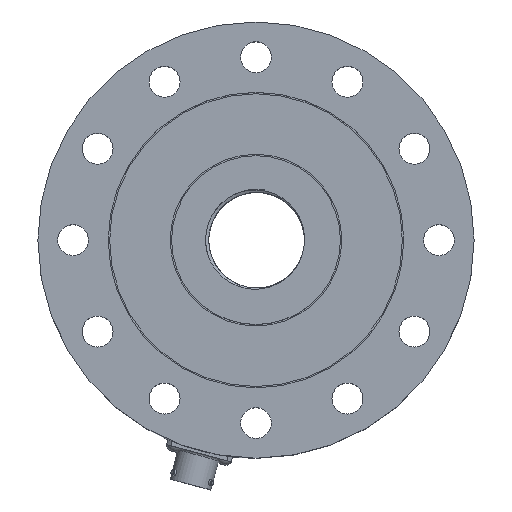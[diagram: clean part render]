
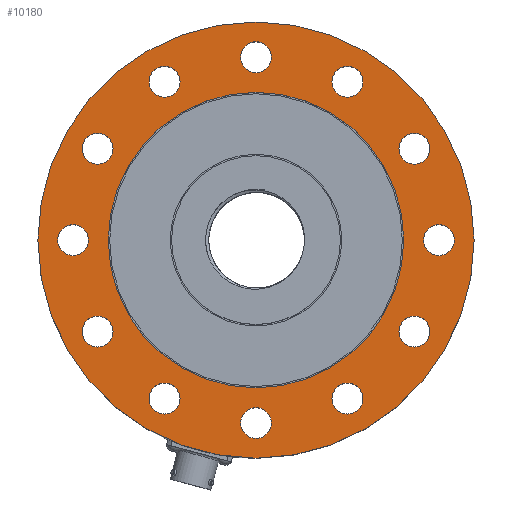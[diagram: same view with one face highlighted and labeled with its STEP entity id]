
A CAD part, top view. The second image highlights one B-rep face of the part: STEP entity #10180.
In plain terms, the highlighted planar face has unit normal (0, 0, 1).
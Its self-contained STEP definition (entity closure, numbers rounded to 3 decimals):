
#184=FACE_BOUND('',#1755,.T.);
#185=FACE_BOUND('',#1756,.T.);
#186=FACE_BOUND('',#1757,.T.);
#187=FACE_BOUND('',#1758,.T.);
#188=FACE_BOUND('',#1759,.T.);
#189=FACE_BOUND('',#1760,.T.);
#190=FACE_BOUND('',#1761,.T.);
#191=FACE_BOUND('',#1762,.T.);
#192=FACE_BOUND('',#1763,.T.);
#193=FACE_BOUND('',#1764,.T.);
#194=FACE_BOUND('',#1765,.T.);
#195=FACE_BOUND('',#1766,.T.);
#196=FACE_BOUND('',#1767,.T.);
#320=PLANE('',#10835);
#609=CIRCLE('',#10831,52.5);
#612=CIRCLE('',#10834,52.5);
#613=CIRCLE('',#10836,77.5);
#614=CIRCLE('',#10837,77.5);
#615=CIRCLE('',#10838,5.5);
#616=CIRCLE('',#10839,5.5);
#617=CIRCLE('',#10840,5.5);
#618=CIRCLE('',#10841,5.5);
#619=CIRCLE('',#10842,5.5);
#620=CIRCLE('',#10843,5.5);
#621=CIRCLE('',#10844,5.5);
#622=CIRCLE('',#10845,5.5);
#623=CIRCLE('',#10846,5.5);
#624=CIRCLE('',#10847,5.5);
#625=CIRCLE('',#10848,5.5);
#626=CIRCLE('',#10849,5.5);
#1155=FACE_OUTER_BOUND('',#1754,.T.);
#1754=EDGE_LOOP('',(#7090,#7091));
#1755=EDGE_LOOP('',(#7092));
#1756=EDGE_LOOP('',(#7093));
#1757=EDGE_LOOP('',(#7094));
#1758=EDGE_LOOP('',(#7095));
#1759=EDGE_LOOP('',(#7096));
#1760=EDGE_LOOP('',(#7097));
#1761=EDGE_LOOP('',(#7098));
#1762=EDGE_LOOP('',(#7099));
#1763=EDGE_LOOP('',(#7100));
#1764=EDGE_LOOP('',(#7101));
#1765=EDGE_LOOP('',(#7102));
#1766=EDGE_LOOP('',(#7103));
#1767=EDGE_LOOP('',(#7104,#7105));
#4298=VERTEX_POINT('',#18125);
#4299=VERTEX_POINT('',#18126);
#4302=VERTEX_POINT('',#18135);
#4303=VERTEX_POINT('',#18136);
#4304=VERTEX_POINT('',#18139);
#4305=VERTEX_POINT('',#18141);
#4306=VERTEX_POINT('',#18143);
#4307=VERTEX_POINT('',#18145);
#4308=VERTEX_POINT('',#18147);
#4309=VERTEX_POINT('',#18149);
#4310=VERTEX_POINT('',#18151);
#4311=VERTEX_POINT('',#18153);
#4312=VERTEX_POINT('',#18155);
#4313=VERTEX_POINT('',#18157);
#4314=VERTEX_POINT('',#18159);
#4315=VERTEX_POINT('',#18161);
#5431=EDGE_CURVE('',#4298,#4299,#609,.T.);
#5435=EDGE_CURVE('',#4299,#4298,#612,.T.);
#5436=EDGE_CURVE('',#4302,#4303,#613,.T.);
#5437=EDGE_CURVE('',#4303,#4302,#614,.T.);
#5438=EDGE_CURVE('',#4304,#4304,#615,.T.);
#5439=EDGE_CURVE('',#4305,#4305,#616,.T.);
#5440=EDGE_CURVE('',#4306,#4306,#617,.T.);
#5441=EDGE_CURVE('',#4307,#4307,#618,.T.);
#5442=EDGE_CURVE('',#4308,#4308,#619,.T.);
#5443=EDGE_CURVE('',#4309,#4309,#620,.T.);
#5444=EDGE_CURVE('',#4310,#4310,#621,.T.);
#5445=EDGE_CURVE('',#4311,#4311,#622,.T.);
#5446=EDGE_CURVE('',#4312,#4312,#623,.T.);
#5447=EDGE_CURVE('',#4313,#4313,#624,.T.);
#5448=EDGE_CURVE('',#4314,#4314,#625,.T.);
#5449=EDGE_CURVE('',#4315,#4315,#626,.T.);
#7090=ORIENTED_EDGE('',*,*,#5436,.T.);
#7091=ORIENTED_EDGE('',*,*,#5437,.T.);
#7092=ORIENTED_EDGE('',*,*,#5438,.T.);
#7093=ORIENTED_EDGE('',*,*,#5439,.T.);
#7094=ORIENTED_EDGE('',*,*,#5440,.T.);
#7095=ORIENTED_EDGE('',*,*,#5441,.T.);
#7096=ORIENTED_EDGE('',*,*,#5442,.T.);
#7097=ORIENTED_EDGE('',*,*,#5443,.T.);
#7098=ORIENTED_EDGE('',*,*,#5444,.T.);
#7099=ORIENTED_EDGE('',*,*,#5445,.T.);
#7100=ORIENTED_EDGE('',*,*,#5446,.T.);
#7101=ORIENTED_EDGE('',*,*,#5447,.T.);
#7102=ORIENTED_EDGE('',*,*,#5448,.T.);
#7103=ORIENTED_EDGE('',*,*,#5449,.T.);
#7104=ORIENTED_EDGE('',*,*,#5431,.F.);
#7105=ORIENTED_EDGE('',*,*,#5435,.F.);
#10180=ADVANCED_FACE('',(#1155,#184,#185,#186,#187,#188,#189,#190,#191,
#192,#193,#194,#195,#196),#320,.T.);
#10831=AXIS2_PLACEMENT_3D('',#18127,#12012,#12013);
#10834=AXIS2_PLACEMENT_3D('',#18133,#12019,#12020);
#10835=AXIS2_PLACEMENT_3D('',#18134,#12021,#12022);
#10836=AXIS2_PLACEMENT_3D('',#18137,#12023,#12024);
#10837=AXIS2_PLACEMENT_3D('',#18138,#12025,#12026);
#10838=AXIS2_PLACEMENT_3D('',#18140,#12027,#12028);
#10839=AXIS2_PLACEMENT_3D('',#18142,#12029,#12030);
#10840=AXIS2_PLACEMENT_3D('',#18144,#12031,#12032);
#10841=AXIS2_PLACEMENT_3D('',#18146,#12033,#12034);
#10842=AXIS2_PLACEMENT_3D('',#18148,#12035,#12036);
#10843=AXIS2_PLACEMENT_3D('',#18150,#12037,#12038);
#10844=AXIS2_PLACEMENT_3D('',#18152,#12039,#12040);
#10845=AXIS2_PLACEMENT_3D('',#18154,#12041,#12042);
#10846=AXIS2_PLACEMENT_3D('',#18156,#12043,#12044);
#10847=AXIS2_PLACEMENT_3D('',#18158,#12045,#12046);
#10848=AXIS2_PLACEMENT_3D('',#18160,#12047,#12048);
#10849=AXIS2_PLACEMENT_3D('',#18162,#12049,#12050);
#12012=DIRECTION('center_axis',(0.,0.,1.));
#12013=DIRECTION('ref_axis',(-1.,0.,0.));
#12019=DIRECTION('center_axis',(0.,0.,1.));
#12020=DIRECTION('ref_axis',(-1.,0.,0.));
#12021=DIRECTION('center_axis',(0.,0.,1.));
#12022=DIRECTION('ref_axis',(-1.,0.,0.));
#12023=DIRECTION('center_axis',(0.,0.,1.));
#12024=DIRECTION('ref_axis',(-1.,0.,0.));
#12025=DIRECTION('center_axis',(0.,0.,1.));
#12026=DIRECTION('ref_axis',(-1.,0.,0.));
#12027=DIRECTION('center_axis',(0.,0.,-1.));
#12028=DIRECTION('ref_axis',(1.,0.,0.));
#12029=DIRECTION('center_axis',(0.,0.,-1.));
#12030=DIRECTION('ref_axis',(1.,0.,0.));
#12031=DIRECTION('center_axis',(0.,0.,-1.));
#12032=DIRECTION('ref_axis',(1.,0.,0.));
#12033=DIRECTION('center_axis',(0.,0.,-1.));
#12034=DIRECTION('ref_axis',(1.,0.,0.));
#12035=DIRECTION('center_axis',(0.,0.,-1.));
#12036=DIRECTION('ref_axis',(1.,0.,0.));
#12037=DIRECTION('center_axis',(0.,0.,-1.));
#12038=DIRECTION('ref_axis',(1.,0.,0.));
#12039=DIRECTION('center_axis',(0.,0.,-1.));
#12040=DIRECTION('ref_axis',(1.,0.,0.));
#12041=DIRECTION('center_axis',(0.,0.,-1.));
#12042=DIRECTION('ref_axis',(1.,0.,0.));
#12043=DIRECTION('center_axis',(0.,0.,-1.));
#12044=DIRECTION('ref_axis',(1.,0.,0.));
#12045=DIRECTION('center_axis',(0.,0.,-1.));
#12046=DIRECTION('ref_axis',(1.,0.,0.));
#12047=DIRECTION('center_axis',(0.,0.,-1.));
#12048=DIRECTION('ref_axis',(1.,0.,0.));
#12049=DIRECTION('center_axis',(0.,0.,-1.));
#12050=DIRECTION('ref_axis',(1.,0.,0.));
#18125=CARTESIAN_POINT('',(-52.5,0.,44.));
#18126=CARTESIAN_POINT('',(52.5,0.,44.));
#18127=CARTESIAN_POINT('Origin',(0.,0.,
44.));
#18133=CARTESIAN_POINT('Origin',(0.,0.,
44.));
#18134=CARTESIAN_POINT('Origin',(-52.5,0.,44.));
#18135=CARTESIAN_POINT('',(-77.5,0.,44.));
#18136=CARTESIAN_POINT('',(77.5,0.,44.));
#18137=CARTESIAN_POINT('Origin',(0.,0.,
44.));
#18138=CARTESIAN_POINT('Origin',(0.,0.,
44.));
#18139=CARTESIAN_POINT('',(50.792,32.5,44.));
#18140=CARTESIAN_POINT('Origin',(56.292,32.5,44.));
#18141=CARTESIAN_POINT('',(-61.792,32.5,44.));
#18142=CARTESIAN_POINT('Origin',(-56.292,32.5,44.));
#18143=CARTESIAN_POINT('',(-5.5,-65.,44.));
#18144=CARTESIAN_POINT('Origin',(0.,-65.,44.));
#18145=CARTESIAN_POINT('',(-61.792,-32.5,44.));
#18146=CARTESIAN_POINT('Origin',(-56.292,-32.5,44.));
#18147=CARTESIAN_POINT('',(-38.,56.292,44.));
#18148=CARTESIAN_POINT('Origin',(-32.5,56.292,44.));
#18149=CARTESIAN_POINT('',(59.5,0.,44.));
#18150=CARTESIAN_POINT('Origin',(65.,0.,44.));
#18151=CARTESIAN_POINT('',(27.,56.292,44.));
#18152=CARTESIAN_POINT('Origin',(32.5,56.292,44.));
#18153=CARTESIAN_POINT('',(-70.5,0.,44.));
#18154=CARTESIAN_POINT('Origin',(-65.,0.,44.));
#18155=CARTESIAN_POINT('',(27.,-56.292,44.));
#18156=CARTESIAN_POINT('Origin',(32.5,-56.292,44.));
#18157=CARTESIAN_POINT('',(-38.,-56.292,44.));
#18158=CARTESIAN_POINT('Origin',(-32.5,-56.292,44.));
#18159=CARTESIAN_POINT('',(-5.5,65.,44.));
#18160=CARTESIAN_POINT('Origin',(0.,65.,44.));
#18161=CARTESIAN_POINT('',(50.792,-32.5,44.));
#18162=CARTESIAN_POINT('Origin',(56.292,-32.5,44.));
